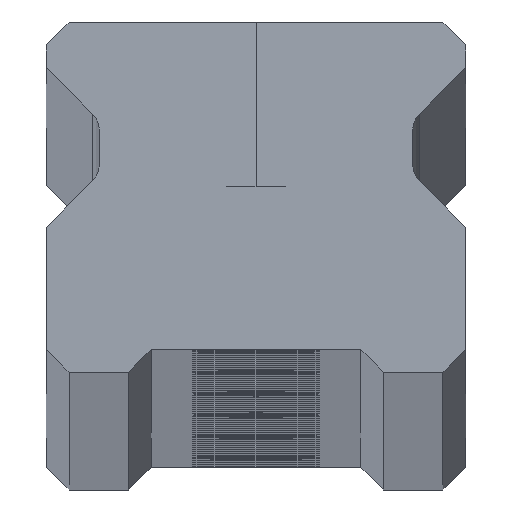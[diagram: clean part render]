
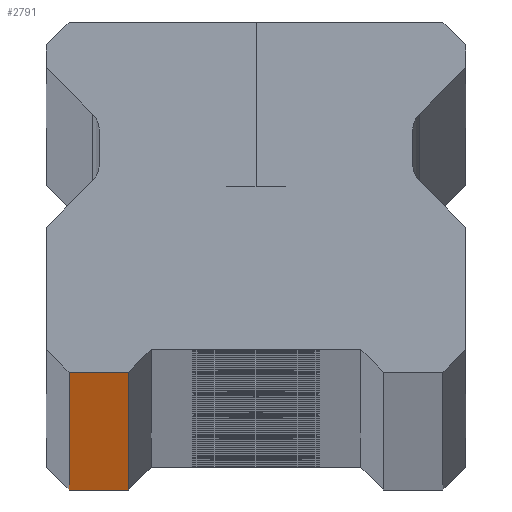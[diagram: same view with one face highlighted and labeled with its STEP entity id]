
A CAD part, top view. The second image highlights one B-rep face of the part: STEP entity #2791.
In plain terms, the highlighted planar face has unit normal (0, -1, 0).
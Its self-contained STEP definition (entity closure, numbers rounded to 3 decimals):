
#666 = VERTEX_POINT ( 'NONE', #7518 ) ;
#1362 = EDGE_CURVE ( 'NONE', #2476, #6818, #8617, .T. ) ;
#1390 = CARTESIAN_POINT ( 'NONE',  ( -7., 0., -1850. ) ) ;
#2182 = DIRECTION ( 'NONE',  ( 0., 0., 1. ) ) ;
#2277 = CARTESIAN_POINT ( 'NONE',  ( 11.5, 0., -1850. ) ) ;
#2439 = LINE ( 'NONE', #6809, #8082 ) ;
#2476 = VERTEX_POINT ( 'NONE', #4186 ) ;
#2791 = ADVANCED_FACE ( 'NONE', ( #9170 ), #9344, .F. ) ;
#2859 = ORIENTED_EDGE ( 'NONE', *, *, #6090, .F. ) ;
#2903 = DIRECTION ( 'NONE',  ( 0., 1., 0. ) ) ;
#2910 = VECTOR ( 'NONE', #2182, 1000. ) ;
#3105 = DIRECTION ( 'NONE',  ( 1., 0., 0. ) ) ;
#3503 = CARTESIAN_POINT ( 'NONE',  ( -7., 0., -1850. ) ) ;
#3840 = VECTOR ( 'NONE', #3105, 1000. ) ;
#3882 = DIRECTION ( 'NONE',  ( 0., 0., -1. ) ) ;
#4186 = CARTESIAN_POINT ( 'NONE',  ( -10.25, 0., -1850. ) ) ;
#4244 = EDGE_CURVE ( 'NONE', #666, #2476, #5734, .T. ) ;
#5392 = CARTESIAN_POINT ( 'NONE',  ( -10.25, 0., 1850. ) ) ;
#5734 = LINE ( 'NONE', #5392, #8123 ) ;
#5782 = EDGE_LOOP ( 'NONE', ( #9647, #7771, #2859, #10305 ) ) ;
#6090 = EDGE_CURVE ( 'NONE', #666, #7402, #2439, .T. ) ;
#6809 = CARTESIAN_POINT ( 'NONE',  ( 11.5, 0., 1850. ) ) ;
#6818 = VERTEX_POINT ( 'NONE', #3503 ) ;
#6831 = CARTESIAN_POINT ( 'NONE',  ( 11.5, 0., 1850. ) ) ;
#7115 = EDGE_CURVE ( 'NONE', #6818, #7402, #9073, .T. ) ;
#7402 = VERTEX_POINT ( 'NONE', #8130 ) ;
#7518 = CARTESIAN_POINT ( 'NONE',  ( -10.25, 0., 1850. ) ) ;
#7606 = DIRECTION ( 'NONE',  ( -1., 0., 0. ) ) ;
#7632 = AXIS2_PLACEMENT_3D ( 'NONE', #6831, #2903, #7606 ) ;
#7771 = ORIENTED_EDGE ( 'NONE', *, *, #7115, .T. ) ;
#8082 = VECTOR ( 'NONE', #9457, 1000. ) ;
#8123 = VECTOR ( 'NONE', #3882, 1000. ) ;
#8130 = CARTESIAN_POINT ( 'NONE',  ( -7., 0., 1850. ) ) ;
#8617 = LINE ( 'NONE', #2277, #3840 ) ;
#9073 = LINE ( 'NONE', #1390, #2910 ) ;
#9170 = FACE_OUTER_BOUND ( 'NONE', #5782, .T. ) ;
#9344 = PLANE ( 'NONE',  #7632 ) ;
#9457 = DIRECTION ( 'NONE',  ( 1., 0., 0. ) ) ;
#9647 = ORIENTED_EDGE ( 'NONE', *, *, #1362, .T. ) ;
#10305 = ORIENTED_EDGE ( 'NONE', *, *, #4244, .T. ) ;
